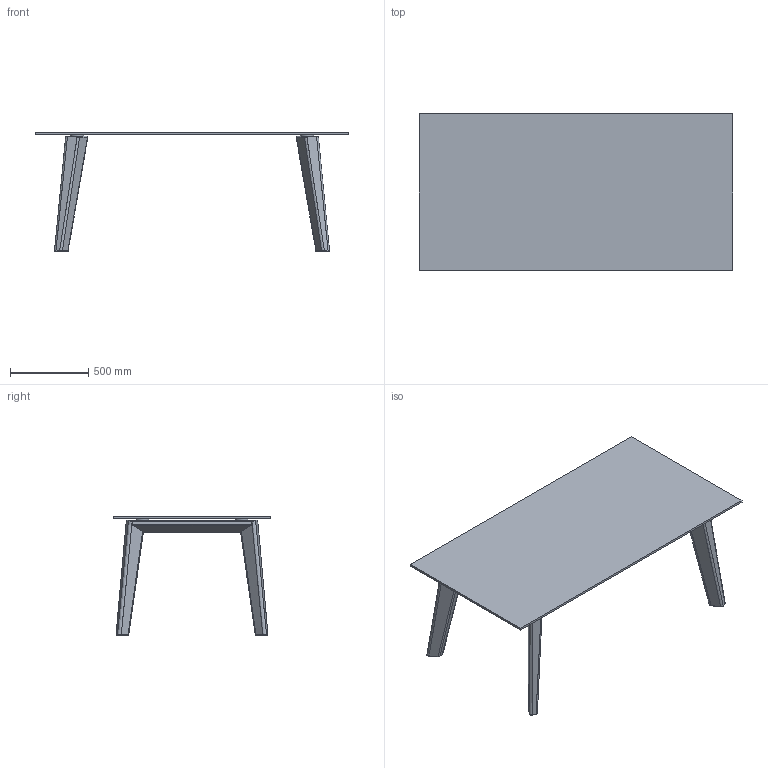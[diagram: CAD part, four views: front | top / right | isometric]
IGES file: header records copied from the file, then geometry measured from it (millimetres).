
Global section: file name: \\SERVer2\Datos\PROYECTOS\2022\02\2D&3D MESA MONTE - TOP CRISTAL 2000X1000mm\3D\MESA MONTE - TOP CRISTAL 2000X1000mm IGES.igs; native system: Rhinoceros ( Feb  3 2021 ); preprocessor: Trout Lake IGES 012 Feb  3 2021; date: 220202.101412; units: millimetre
Bounding box: 2000 x 1000 x 760 mm (x, y, z)
Surface area: 5692289.1 mm2 (no closed solid volume)
Topology: 0 solids, 0 shells, 182 faces, 1744 edges, 1732 vertices
Faces by surface type: bspline 182
